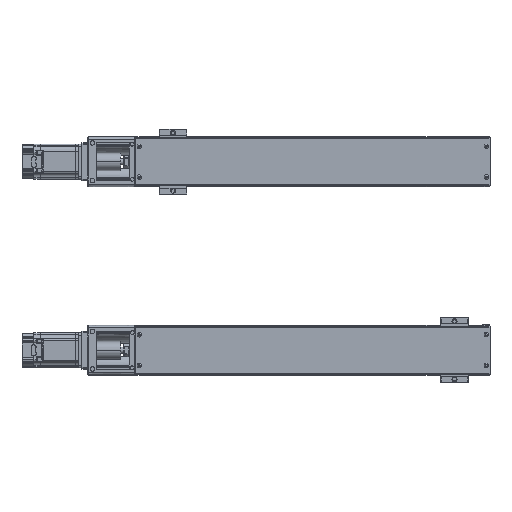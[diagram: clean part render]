
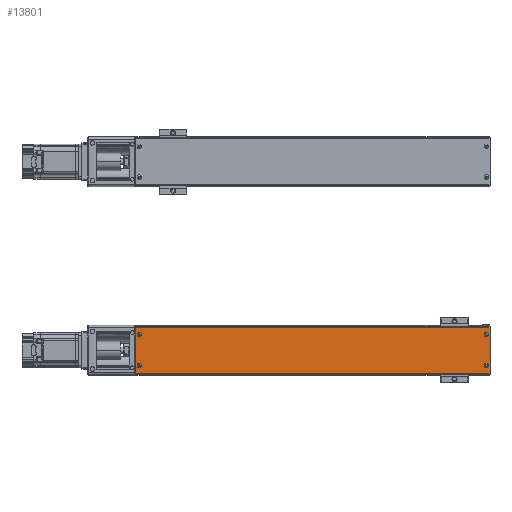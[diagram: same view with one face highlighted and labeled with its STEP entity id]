
A CAD part, top view. The second image highlights one B-rep face of the part: STEP entity #13801.
In plain terms, the highlighted planar face has unit normal (0, 0, 1).
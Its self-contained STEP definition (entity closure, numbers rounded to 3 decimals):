
#13801=ADVANCED_FACE('',(#27048),#27049,.T.);
#27048=FACE_OUTER_BOUND('',#51748,.T.);
#27049=PLANE('',#51749);
#51748=EDGE_LOOP('',(#88022,#88023,#88024,#88025));
#51749=AXIS2_PLACEMENT_3D('',#88026,#88027,#88028);
#88022=ORIENTED_EDGE('',*,*,#93646,.T.);
#88023=ORIENTED_EDGE('',*,*,#93466,.F.);
#88024=ORIENTED_EDGE('',*,*,#91674,.T.);
#88025=ORIENTED_EDGE('',*,*,#98578,.F.);
#88026=CARTESIAN_POINT('',(-149.88,-1045.19,-6.33));
#88027=DIRECTION('',(0.0,-0.0,1.0));
#88028=DIRECTION('',(1.0,0.,0.0));
#91674=EDGE_CURVE('',#108588,#108586,#108589,.T.);
#93466=EDGE_CURVE('',#108588,#111502,#111503,.T.);
#93646=EDGE_CURVE('',#111787,#111502,#111788,.T.);
#98578=EDGE_CURVE('',#111787,#108586,#118697,.T.);
#108586=VERTEX_POINT('',#131082);
#108588=VERTEX_POINT('',#131084);
#108589=LINE('',#131085,#131086);
#111502=VERTEX_POINT('',#134888);
#111503=LINE('',#134889,#134890);
#111787=VERTEX_POINT('',#135318);
#111788=LINE('',#135319,#135320);
#118697=LINE('',#144369,#144370);
#131082=CARTESIAN_POINT('',(231.62,-1008.69,-6.33));
#131084=CARTESIAN_POINT('',(231.62,-1081.69,-6.33));
#131085=CARTESIAN_POINT('',(231.62,-1045.19,-6.33));
#131086=VECTOR('',#155691,1.0);
#134888=CARTESIAN_POINT('',(-332.38,-1081.69,-6.33));
#134889=CARTESIAN_POINT('',(-149.88,-1081.69,-6.33));
#134890=VECTOR('',#158534,1.0);
#135318=CARTESIAN_POINT('',(-332.38,-1008.69,-6.33));
#135319=CARTESIAN_POINT('',(-332.38,-1048.44,-6.33));
#135320=VECTOR('',#158804,1.0);
#144369=CARTESIAN_POINT('',(-149.88,-1008.69,-6.33));
#144370=VECTOR('',#166088,1.0);
#155691=DIRECTION('',(0.,1.0,0.));
#158534=DIRECTION('',(-1.0,0.,0.0));
#158804=DIRECTION('',(0.0,-1.0,0.0));
#166088=DIRECTION('',(1.0,0.,0.0));
